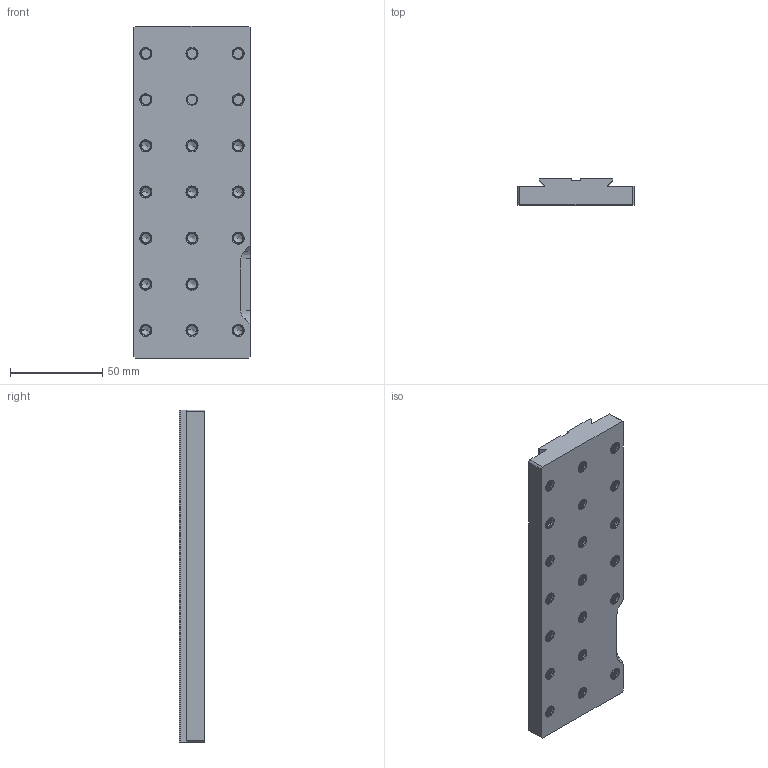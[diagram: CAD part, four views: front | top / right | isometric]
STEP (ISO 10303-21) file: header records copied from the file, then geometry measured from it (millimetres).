
FILE_DESCRIPTION((''),'2;1');
FILE_NAME('OPH-F180','2021-07-16T',('Administrator'),(''),'CREO PARAMETRIC BY PTC INC, 2015290','CREO PARAMETRIC BY PTC INC, 2015290','');
FILE_SCHEMA(('CONFIG_CONTROL_DESIGN'));
Length unit declared in the file: millimetre
Products named in the file (1): OPH-F180
Bounding box: 63 x 14 x 180 mm (x, y, z)
Volume: 133838.3 mm3; surface area: 34381 mm2
Topology: 1 solids, 1 shells, 519 faces, 1407 edges, 882 vertices
Faces by surface type: cylinder 262, bspline 160, cone 66, plane 29, extrusion 2
Entity records: 35671 total; most frequent: CARTESIAN_POINT 24602, ORIENTED_EDGE 2758, DIRECTION 1493, EDGE_CURVE 1379, VERTEX_POINT 882, B_SPLINE_CURVE_WITH_KNOTS 726, EDGE_LOOP 539, VECTOR 535
